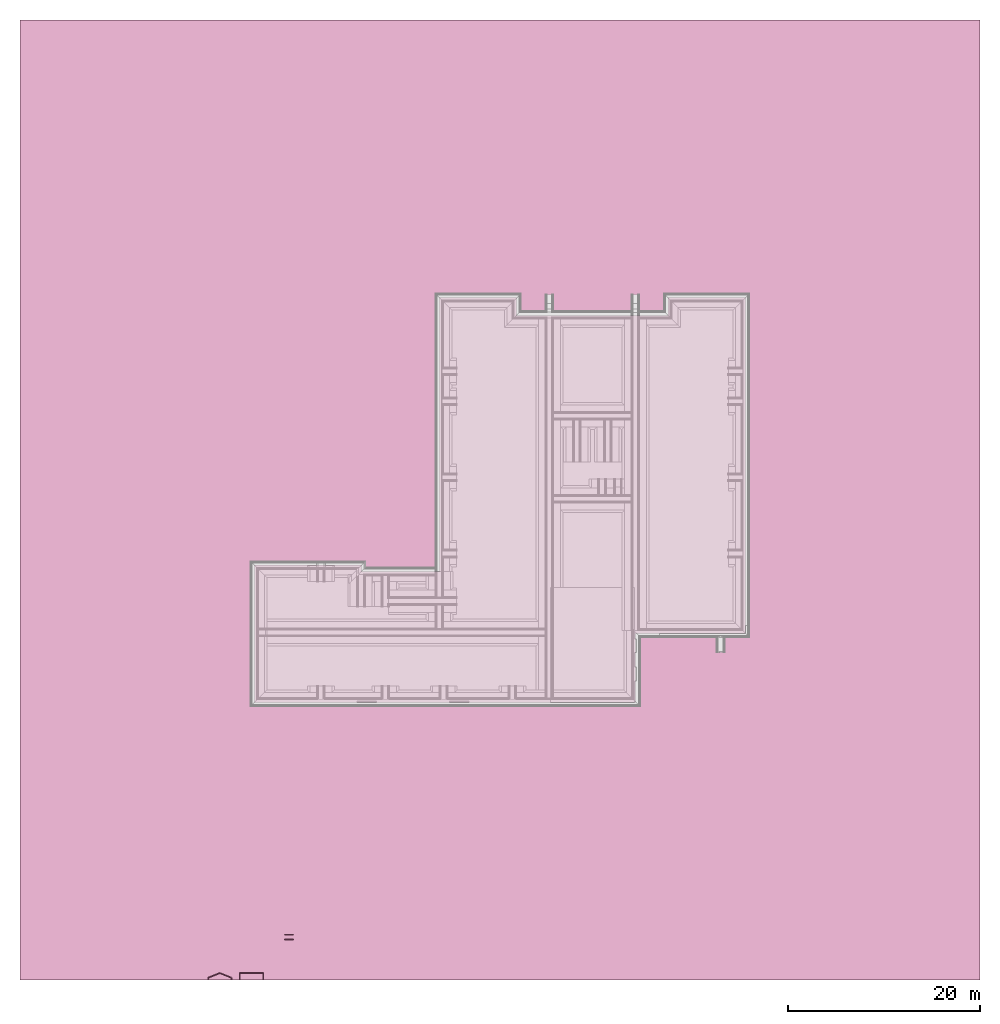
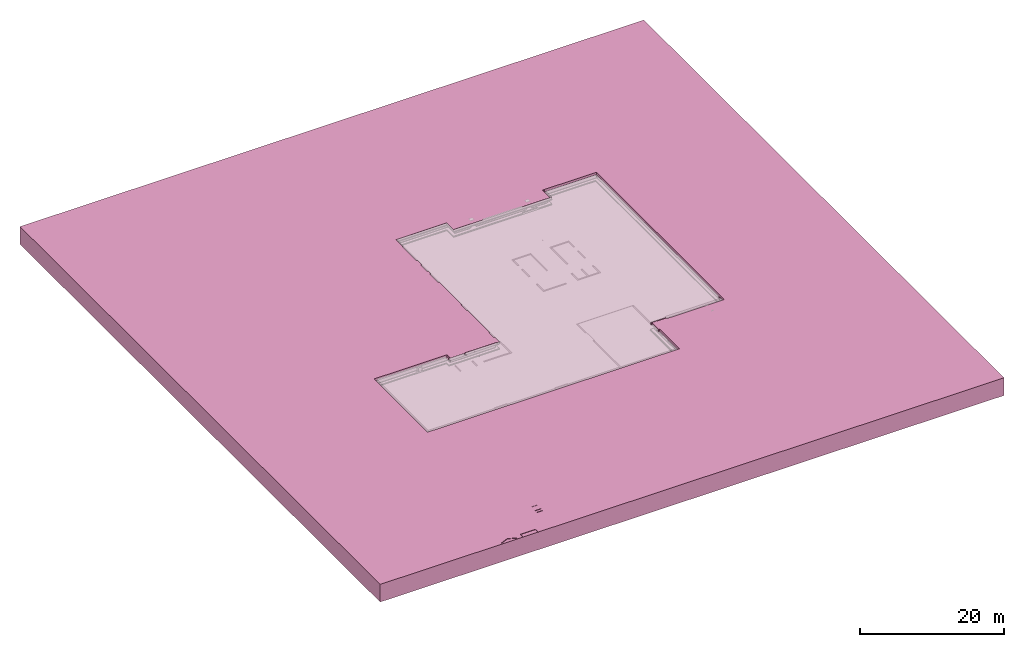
# One storey, part 15 of 15: 2 furnishings.
"""IFC2X3 building model written with IfcOpenShell, lengths in millimetres."""

from ifc_helpers import new_model, entity, si_unit, converted_unit, derived_unit, money_unit, direction, frame, origin_with_axes, place, context, subcontext, project, spatial, faceted_brep, material, type_object, element, save


model = new_model("IFC2X3")

# Units and contexts
model_context = context("Model", 3, precision=0.01, world=origin_with_axes(), true_north=direction((0.0, 1.0)))
plan_context = context("Plan", 3, precision=0.01, world=origin_with_axes(), true_north=direction((0.0, 1.0)))
body_context = subcontext(model_context, "Body", "Model", "MODEL_VIEW")
ifc_project = project(units=[si_unit("LENGTHUNIT", "METRE", prefix="MILLI"), si_unit("AREAUNIT", "SQUARE_METRE"), si_unit("VOLUMEUNIT", "CUBIC_METRE"), converted_unit("PLANEANGLEUNIT", "DEGREE", entity("IfcPlaneAngleMeasure", 0.0174532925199), si_unit("PLANEANGLEUNIT", "RADIAN"), dimensions=[0, 0, 0, 0, 0, 0, 0]), money_unit("EUR"), converted_unit("TIMEUNIT", "Year", entity("IfcTimeMeasure", 31556926.0), si_unit("TIMEUNIT", "SECOND"), dimensions=[0, 0, 1, 0, 0, 0, 0]), si_unit("MASSUNIT", "GRAM", prefix="KILO"), si_unit("THERMODYNAMICTEMPERATUREUNIT", "DEGREE_CELSIUS"), si_unit("LUMINOUSINTENSITYUNIT", "LUMEN"), si_unit("ENERGYUNIT", "JOULE", prefix="MEGA"), derived_unit("THERMALCONDUCTANCEUNIT", [(si_unit("POWERUNIT", "WATT"), 1), (si_unit("LENGTHUNIT", "METRE"), -1), (si_unit("THERMODYNAMICTEMPERATUREUNIT", "KELVIN"), -1)]), derived_unit("SPECIFICHEATCAPACITYUNIT", [(si_unit("ENERGYUNIT", "JOULE"), 1), (si_unit("MASSUNIT", "GRAM", prefix="KILO"), -1), (si_unit("THERMODYNAMICTEMPERATUREUNIT", "KELVIN"), -1)]), derived_unit("MASSDENSITYUNIT", [(si_unit("MASSUNIT", "GRAM", prefix="KILO"), 1), (si_unit("VOLUMEUNIT", "CUBIC_METRE"), -1)])], contexts=[model_context, plan_context])

# Site, building, storey
site_placement = place(None, origin_with_axes())
site = spatial("IfcSite", under=ifc_project, at=site_placement, Name="Site", CompositionType="ELEMENT")
building_placement = place(site_placement, origin_with_axes())
building = spatial("IfcBuilding", under=site, at=building_placement, Name="Naam gebouw", CompositionType="ELEMENT")
storey_placement = place(building_placement, frame((0.0, 0.0, -1050.0), z_axis=(0.0, 0.0, 1.0), x_axis=(1.0, 0.0, 0.0)))
storey = spatial("IfcBuildingStorey", under=building, at=storey_placement, Name="fundering", CompositionType="ELEMENT", Elevation=-1050.0)

# Furnishings
ifc_material = material(Name="ALG - TERREIN")
furniture_type_1 = type_object("IfcFurnitureType", Name="ALG - TERREIN 1740", AssemblyPlace="NOTDEFINED")
furnishing_1_placement = place(storey_placement, frame((4850.0, 4850.0, -310.000000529), z_axis=(0.0, 0.0, 1.0), x_axis=(1.0, 0.0, 0.0)))
element("IfcFurnishingElement", 1, at=furnishing_1_placement, inside=storey, type_object=furniture_type_1, material=ifc_material, Name="72_75 vaste inrichting", ObjectType="SHELF", context=body_context, shape_type="Brep", body=[
    faceted_brep([(39695.0, 0.0, 0.0), (0.0, 0.0, 0.0), (0.0, 0.0, -1739.99999947), (39695.0, 0.0, -1739.99999947), (11155.0, 14300.0, 0.0), (0.0, 14300.0, 0.0), (39695.0, 7200.00003368, 0.0), (51175.0, 7200.00003368, 0.0), (51175.0, 42186.9904411, 0.0), (43075.0000195, 42186.9904411, 0.0), (43075.0000195, 40303.0, 0.0), (27290.0, 40303.0, 0.0), (27290.0, 42186.9904411, 0.0), (19275.0, 42186.9904411, 0.0), (19275.0, 13645.0, 0.0), (11155.0, 13645.0, 0.0), (0.0, 14300.0, -1739.99999947), (39695.0, 7200.00003368, -1739.99999947), (11155.0, 14300.0, -1739.99999947), (11155.0, 13645.0, -1739.99999947), (19275.0, 13645.0, -1739.99999947), (19275.0, 42186.9904411, -1739.99999947), (27290.0, 42186.9904411, -1739.99999947), (27290.0, 40303.0, -1739.99999947), (43075.0000195, 40303.0, -1739.99999947), (43075.0000195, 42186.9904411, -1739.99999947), (51175.0, 42186.9904411, -1739.99999947), (51175.0, 7200.00003368, -1739.99999947)], [[[0, 1, 2, 3]], [[4, 5, 1, 0, 6, 7, 8, 9, 10, 11, 12, 13, 14, 15]], [[1, 5, 16, 2]], [[17, 3, 2, 16, 18, 19, 20, 21, 22, 23, 24, 25, 26, 27]], [[6, 0, 3, 17]], [[5, 4, 18, 16]], [[7, 6, 17, 27]], [[8, 7, 27, 26]], [[9, 8, 26, 25]], [[10, 9, 25, 24]], [[11, 10, 24, 23]], [[12, 11, 23, 22]], [[13, 12, 22, 21]], [[14, 13, 21, 20]], [[15, 14, 20, 19]], [[4, 15, 19, 18]]]),
])
furniture_type_2 = type_object("IfcFurnitureType", Name="ALG - TERREIN 3000", AssemblyPlace="NOTDEFINED")
furnishing_2_placement = place(storey_placement, frame((-19562.5, -24056.5047795, 950.0), z_axis=(0.0, 0.0, 1.0), x_axis=(1.0, 0.0, 0.0)))
element("IfcFurnishingElement", 2, at=furnishing_2_placement, inside=storey, type_object=furniture_type_2, material=ifc_material, Name="72_75 vaste inrichting", ObjectType="SHELF", context=body_context, shape_type="Brep", body=[
    faceted_brep([(66617.5, 36056.5048131, -410.000001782), (64329.4999635, 36056.5048131, -410.000001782), (64217.4999635, 36056.5048131, -410.000001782), (64217.5008571, 36106.5048131, -410.000001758), (66617.5, 36106.5048265, -410.00000095), (66617.5, 36056.5048131, 0.0), (64329.4999635, 36056.5048131, 0.0), (64217.5007493, 36056.5048131, 0.0), (64217.5007479, 36106.5048131, 0.0), (66617.5, 36106.5048131, 0.0)], [[[0, 1, 2, 3, 4]], [[0, 5, 6, 1]], [[6, 7, 2, 1]], [[7, 8, 3, 2]], [[9, 4, 3, 8]], [[4, 9, 5, 0]], [[5, 9, 8, 7, 6]]]),
    faceted_brep([(100000.0, 100000.0, 0.0), (0.0, 100000.0, 0.0), (0.0, 0.0, 0.0), (19562.5, 0.0, 0.0), (19562.5, 268.200996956, 0.0), (19652.5, 304.200996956, 0.0), (20691.3337918, 719.734513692, 0.0), (20812.5, 768.200996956, 0.0), (22062.5, 268.200996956, 0.0), (22062.5, 171.268030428, 0.0), (22062.5, 0.0, 0.0), (22861.2491057, 0.0, 0.0), (22861.2491057, 701.200996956, 0.0), (22861.2491057, 768.200996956, 0.0), (25294.2491057, 768.200996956, 0.0), (25361.2491057, 768.200996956, 0.0), (25361.2491057, 0.0, 0.0), (100000.0, 0.0, 0.0), (64217.5002234, 28626.5046977, 0.0), (53387.5, 28626.5046977, 0.0), (24132.4999183, 28626.5047145, 0.0), (24132.4999183, 43486.5048444, 0.0), (35847.5000817, 43486.5048964, 0.0), (35847.5000817, 42651.5047795, 0.0), (35777.5, 42651.5047795, 0.0), (35707.5, 42651.5047795, 0.0), (35567.5, 42651.5047795, 0.0), (35567.5, 42551.5047795, 0.0), (37967.5, 42551.5047795, 0.0), (37967.5, 42579.5047795, 0.0), (38177.5, 42579.5047795, 0.0), (38177.5, 42551.5047795, 0.0), (38227.5, 42551.5047795, 0.0), (38227.5, 42651.5047824, 0.0), (43347.4999999, 42651.5047824, 0.0), (43347.4999999, 42551.5047795, 0.0), (43627.5, 42551.5047795, 0.0), (43627.5, 42579.5047795, 0.0), (43687.5, 42579.5047795, 0.0), (43687.5, 43851.5047795, 0.0), (43547.4999994, 43851.5047795, 0.0), (43547.4999994, 45269.0047795, 0.0), (43687.5, 45269.0047795, 0.0), (43687.5, 51369.0047795, 0.0), (43547.4999994, 51369.0047795, 0.0), (43547.4999994, 52994.0047795, 0.0), (43687.5, 52994.0047795, 0.0), (43687.5, 59294.0047795, 0.0), (43547.4999994, 59294.0047795, 0.0), (43547.4999994, 61669.0047795, 0.0), (43687.5, 61669.0047795, 0.0), (43687.5, 62369.0047795, 0.0), (43547.4999994, 62369.0047795, 0.0), (43547.4999994, 64153.5047981, 0.0), (43687.5, 64153.5047981, 0.0), (43687.5, 65303.5047981, 0.0), (43547.4999994, 65303.5047981, 0.0), (43547.4999994, 69291.5047795, 0.0), (43625.5, 69291.5047795, 0.0), (43625.5, 71155.504757, 0.0), (43687.5, 71155.504757, 0.0), (51732.5032564, 71155.504757, 0.0), (51732.5032564, 71093.504757, 0.0), (51732.5032564, 69271.5047841, 0.0), (67487.5000195, 69271.5047795, 0.0), (67487.4999183, 69281.504763, 0.0), (67347.4999424, 69281.504763, 0.0), (67277.4999042, 69281.504763, 0.0), (67207.4998365, 69281.504763, 0.0), (67207.4999183, 71373.5048082, 0.0), (75867.5001356, 71373.5048394, 0.0), (75867.5000682, 35826.5046688, 0.0), (66617.5, 35826.504745, 0.0), (66617.5, 35896.5047555, 0.0), (66617.5, 35966.5048267, 0.0), (66617.5, 35994.5048131, 0.0), (64329.4999887, 35994.5048131, 0.0), (64329.5007534, 34106.5048248, 0.0), (64497.5000661, 34106.5047795, 0.0), (64497.5000661, 28626.5047147, 0.0), (28474.8956078, 5730.81287156, 0.0), (28474.8956078, 5663.81287156, 0.0), (27549.7388045, 5663.81287156, 0.0), (27549.7388045, 5730.81287156, 0.0), (28474.8956078, 5253.81287156, 0.0), (28474.8956078, 5163.81287156, 0.0), (27549.7388045, 5163.81287156, 0.0), (27549.7388045, 5253.81287156, 0.0), (28474.8956078, 4730.81287156, 0.0), (28474.8956078, 4663.81287156, 0.0), (27549.7388045, 4663.81287156, 0.0), (27549.7388045, 4730.81287156, 0.0), (28474.8956078, 4253.81287156, 0.0), (28474.8956078, 4163.81287156, 0.0), (27549.7388045, 4163.81287156, 0.0), (27549.7388045, 4253.81287156, 0.0), (72853.499908, 35716.5047373, 0.0), (73121.499908, 35716.5047373, 0.0), (73121.499908, 35806.5047373, 0.0), (73137.499908, 35806.5047373, 0.0), (73137.499908, 35706.5047373, 0.0), (72837.499908, 35706.5047373, 0.0), (72837.499908, 35806.5047373, 0.0), (72853.499908, 35806.5047373, 0.0), (72853.499908, 34116.5047795, 0.0), (72837.499908, 34116.5047795, 0.0), (72837.499908, 34216.5047795, 0.0), (73137.499908, 34216.5047795, 0.0), (73137.499908, 34116.5047795, 0.0), (73121.499908, 34116.5047795, 0.0), (73121.499908, 34206.5047795, 0.0), (72853.499908, 34206.5047795, 0.0), (100000.0, 100000.0, -3000.0), (0.0, 100000.0, -3000.0), (0.0, 0.0, -3000.0), (21972.5, 0.0, 0.0), (19652.5, 0.0, 0.0), (19652.5, 0.0, -39.0), (19562.5, 0.0, -39.0), (100000.0, 0.0, -3000.0), (25361.2491057, 0.0, -39.0), (25294.2491057, 0.0, -39.0), (25294.2491057, 0.0, 0.0), (22928.2491057, 0.0, 0.0), (22928.2491057, 0.0, -39.0), (22861.2491057, 0.0, -39.0), (22062.5, 0.0, -39.0), (21972.5, 0.0, -39.0), (19562.5, 268.200996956, -39.0), (19652.5, 304.200996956, -39.0), (20691.3337918, 719.734513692, -39.0), (20812.5, 768.200996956, -39.0), (22062.5, 268.200996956, -39.0), (22062.5, 171.268030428, -39.0), (22861.2491057, 701.200996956, -39.0), (22861.2491057, 768.200996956, -39.0), (25294.2491057, 768.200996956, -39.0), (25361.2491057, 768.200996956, -39.0), (64497.5000661, 28626.5047147, -410.0), (64427.4999985, 28626.5047147, -410.0), (24202.4999369, 28626.5047145, -410.0), (24132.4999183, 28626.5047145, -410.0), (24132.4999183, 43486.5048444, -410.0), (24202.4999369, 43486.5048444, -410.0), (35567.4999979, 43486.5048832, -410.0), (35567.4999979, 43486.5048832, -349.999998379), (35777.5000023, 43486.5048964, -350.0), (35847.5000817, 43486.5048964, -350.0), (35847.5000817, 42651.5047795, -350.0), (35777.5, 42651.5047795, -350.0), (35707.5, 42651.5047795, -350.0), (35567.5, 42651.5047795, -350.0), (35567.4999979, 43206.5048137, -349.999998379), (35567.4999979, 43206.5048137, -410.0), (35567.4999997, 42551.5050846, -410.00000095), (37967.5, 42551.5047795, -410.0), (37967.5, 42579.5047795, -410.0), (38177.5, 42579.5047795, -410.0), (38177.5, 42551.5047795, -410.0), (38227.5, 42551.5047795, -410.0), (38227.5, 42651.5047795, -410.0), (43347.4999999, 42651.5047795, -410.0), (43347.4999999, 42551.5047795, -410.0), (43407.5, 42551.5047795, -410.000001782), (43627.5, 42551.5047795, -410.0), (43627.5, 42579.5047795, -410.0), (43687.5, 42579.5047795, -410.0), (43687.5, 43851.5047795, -350.0), (43687.5, 71093.504541, -410.00000095), (43687.5, 71093.504757, -350.0), (43687.5, 69291.5047795, -350.0), (43687.5, 65303.5047981, -350.0), (43687.5, 64153.5047981, -350.0), (43687.5, 62369.0047795, -350.0), (43687.5, 61669.0047795, -350.0), (43687.5, 59294.0047795, -350.0), (43687.5, 52994.0047795, -350.0), (43687.5, 51369.0047795, -350.0), (43687.5, 45269.0047795, -350.0), (43547.5, 43851.5047795, -350.0), (43547.5, 45269.0047795, -350.0), (43547.5, 51369.0047795, -350.0), (43547.5, 52994.0047795, -350.0), (43547.5, 59294.0047795, -350.0), (43547.5, 61669.0047795, -350.0), (43547.5, 62369.0047795, -350.0), (43547.5, 64153.5047981, -350.0), (43547.5, 65303.5047981, -350.0), (43547.5, 69291.5047795, -350.0), (43625.5, 69291.5047795, -350.0), (43625.5, 71155.504757, -350.0), (43687.5, 71155.504757, -350.0), (51732.5032564, 71155.504757, -350.0), (51732.5032564, 71093.504757, -350.0), (51732.5032564, 69271.5047841, -350.0), (67487.5000195, 69271.5047795, -350.0), (67487.5000195, 69209.5047795, -350.0), (67487.499992, 69209.5047795, -410.000000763), (67487.4999183, 69281.504763, -410.0), (67347.4999424, 69281.504763, -410.0), (67277.4999042, 69281.504763, -410.0), (67207.4998365, 69281.504763, -410.0), (67207.4998365, 70883.5047735, -410.0), (67207.4999183, 70883.5047735, -350.0), (67207.4999183, 71303.5048014, -350.0), (67207.4999183, 71373.5048014, -350.0), (67487.5000225, 71373.5048014, -350.0), (67487.5000225, 71373.5048831, -410.0), (75797.5001416, 71373.5048394, -410.0), (75867.5001361, 71373.5048394, -410.0), (75867.5001361, 37144.0047795, -350.0), (75867.5001361, 36916.5047795, -350.0), (75867.4999775, 36916.5047795, -410.000001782), (75867.4999765, 35826.5048141, -410.000000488), (75867.5001361, 37144.0047795, -410.0), (66617.5, 35826.5048131, -410.000001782), (66617.5, 35896.5047555, -410.000001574), (66617.5, 35966.5048267, -410.000001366), (66617.5, 35994.5048131, -410.000001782), (64329.4999887, 35994.5048131, -410.000001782), (64329.5007534, 34106.5048248, -410.000001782), (64497.5000661, 34106.5047795, -410.0), (28474.8956078, 5730.81287156, -14.0), (28474.8956078, 5663.81287156, -14.0), (27549.7388045, 5663.81287156, -14.0), (27549.7388045, 5730.81287156, -14.0), (28474.8956078, 5253.81287156, -14.0), (28474.8956078, 5163.81287156, -14.0), (27549.7388045, 5163.81287156, -14.0), (27549.7388045, 5253.81287156, -14.0), (28474.8956078, 4730.81287156, -39.0), (28474.8956078, 4663.81287156, -39.0), (27549.7388045, 4663.81287156, -39.0), (27549.7388045, 4730.81287156, -39.0), (28474.8956078, 4253.81287156, -39.0), (28474.8956078, 4163.81287156, -39.0), (27549.7388045, 4163.81287156, -39.0), (27549.7388045, 4253.81287156, -39.0), (73121.499908, 35716.5047373, -396.755325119), (72853.499908, 35716.5047373, -396.755325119), (73121.499908, 35806.5047373, -396.755325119), (73137.499908, 35806.5047373, -396.755325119), (73137.499908, 35706.5047373, -396.755325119), (72837.499908, 35706.5047373, -396.755325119), (72837.499908, 35806.5047373, -396.755325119), (72853.499908, 35806.5047373, -396.755325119), (72837.499908, 34116.5047795, -396.755325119), (72853.499908, 34116.5047795, -396.755325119), (72837.499908, 34216.5047795, -396.755325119), (73137.499908, 34216.5047795, -396.755325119), (73137.499908, 34116.5047795, -396.755325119), (73121.499908, 34116.5047795, -396.755325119), (73121.499908, 34206.5047795, -396.755325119), (72853.499908, 34206.5047795, -396.755325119), (35567.5, 42551.5047795, -3000.0), (35567.5, 43206.5047795, -3000.0), (24412.5, 43206.5047795, -3000.0), (24412.5, 28906.5047795, -3000.0), (64107.5, 28906.5047795, -3000.0), (64107.5, 36106.5048131, -3000.0), (75587.5, 36106.5048131, -3000.0), (75587.5, 71093.4952205, -3000.0), (67487.5000195, 71093.4952205, -3000.0), (67487.5000195, 69209.5047795, -3000.0), (51702.5, 69209.5047795, -3000.0), (51702.5, 71093.4952205, -3000.0), (43687.5, 71093.4952205, -3000.0), (43687.5, 42551.5047795, -3000.0), (21972.5, 207.268030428, 0.0), (20812.5, 671.268030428, 0.0), (19652.5, 207.268030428, 0.0), (19652.5, 207.268030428, -39.0), (20812.5, 671.268030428, -39.0), (21972.5, 207.268030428, -39.0), (22928.2491057, 701.200996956, -39.0), (25294.2491057, 701.200996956, -39.0), (25294.2491057, 701.200996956, 0.0), (22928.2491057, 701.200996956, 0.0), (64597.499978, 35726.5048195, -410.000000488), (64597.499978, 28526.5048076, -410.000000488), (24032.5000064, 28526.5047856, -410.000000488), (24032.5000064, 43586.5047731, -410.000000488), (35947.5015654, 43586.5047731, -410.000000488), (35947.5003774, 42931.5047731, -410.000000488), (43307.5000114, 42931.5047731, -409.999997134), (43307.5000064, 71473.5047506, -410.000000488), (52152.4999936, 71473.5047506, -410.000000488), (52152.4999936, 69659.5047731, -410.000000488), (54767.4996335, 69659.5047731, -409.999997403), (54767.4996333, 71394.5047794, -409.999997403), (55567.5003664, 71394.5047795, -409.999997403), (55567.5003665, 69659.5047731, -409.999997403), (63707.4996335, 69659.5047731, -409.999997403), (63707.4996335, 71394.5047795, -409.999997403), (64507.5003665, 71394.5047795, -409.999997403), (64507.5003665, 69659.5047731, -409.999997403), (67107.5000005, 69659.5047731, -410.000000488), (67107.4995364, 71473.4975079, -410.000000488), (75967.4999711, 71473.5049432, -410.000000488), (75967.4999711, 35726.5048195, -410.000000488), (73397.4999936, 35726.5048255, -409.999996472), (73397.4999936, 34126.5047308, -410.00000577), (72597.4987634, 34126.5047308, -410.00000577), (72597.4987634, 35726.5048255, -409.999996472), (75797.5000577, 36916.5047795, -410.000001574), (75727.5000119, 36916.5047795, -410.000001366), (75587.4999866, 36916.5047795, -410.00000095), (75587.5000397, 37144.0047795, -410.0), (75727.5000479, 37144.0047795, -410.0), (75797.5001174, 37144.0047795, -410.0), (67487.5000225, 71303.5048887, -410.0), (67487.5000225, 71233.5047528, -410.0), (67487.5000225, 71093.5048014, -410.0), (67487.5000225, 70883.5048292, -410.0), (67347.4999424, 70883.5047735, -410.0), (67277.4999042, 70883.5047735, -410.0), (51702.5, 69209.5047795, -410.000000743), (51702.5, 71093.5004454, -410.00000095), (35567.4999979, 43346.5048006, -410.0), (35567.4999979, 43416.5048169, -410.0), (35567.4999979, 43416.5048169, -349.999998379), (35567.4999979, 43346.5048006, -349.999998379), (51702.5, 71093.4952205, -350.0), (51702.5, 69209.5047795, -350.0), (67277.4999183, 70883.5047735, -350.0), (67277.4999183, 71303.5048014, -350.0), (67487.5000225, 71303.5048014, -350.0), (75797.5000735, 37144.0047795, -350.0), (75797.5000735, 36916.5047795, -350.0), (35567.4999989, 43206.5038958, -1109.99999465), (35567.4999999, 42551.5050849, -1109.99999465), (31825.0014943, 43206.5045809, -1059.08244427), (30874.9985057, 43206.5046175, -1059.08244427), (30874.9985057, 43206.5046173, -1109.99999767), (24412.5000107, 43206.5047688, -1109.99999465), (31825.0014943, 43206.5045807, -1109.99999765), (24412.5000107, 28906.5047901, -1109.99999465), (64107.5, 28906.5047811, -1109.99999465), (64107.5, 28926.5048072, -1109.99999447), (64107.5, 28926.5048072, -1259.99999866), (64107.5, 36106.5048131, -1259.99999866), (75587.4999893, 36106.50482, -1109.99999465), (64197.4999782, 36106.5048138, -1259.99999866), (64197.4999782, 36106.5048142, -1109.99999508), (75587.5000271, 71093.502212, -1109.99999465), (67487.4999819, 71093.4974785, -1109.99999465), (67487.5000015, 69259.5047733, -1109.99999447), (67487.5000038, 69259.5047733, -1259.99999866), (67487.5000052, 69209.5047795, -1259.99999866), (51702.5, 69209.5047795, -1259.99999866), (51702.5, 71093.4979314, -1109.99999464), (51702.5, 71073.5047508, -1259.99999866), (51702.5, 71073.5047508, -1109.99999447), (43687.5, 71093.502022, -1109.99999465), (43687.5, 42551.5047795, -1109.99999465), (43232.4999973, 42551.5047795, -1109.99999866), (64597.4999748, 35726.5048228, -1010.00000107), (64597.4999748, 28526.5048108, -1010.00000107), (24032.5000096, 28526.5047889, -1010.00000107), (24032.5000096, 43586.5047699, -1010.00000107), (35947.5015621, 43586.5047699, -1010.00000107), (35947.5003741, 42931.5047699, -1010.00000107), (43307.5000114, 42931.5047731, -1009.99998921), (43307.5000096, 71473.5047474, -1010.00000107), (52152.4999904, 71473.5047474, -1010.00000107), (52152.4999904, 69659.5047699, -1010.00000107), (54767.4996335, 69659.5047731, -1009.99999936), (54767.4996388, 71394.5047794, -1009.99999335), (54692.4996242, 71394.5047794, -1009.99999335), (54692.4996242, 71394.5047794, -1109.99999866), (55642.5003755, 71394.5047795, -1109.99999866), (55642.5003755, 71394.5047795, -1009.99999335), (55567.5003609, 71394.5047795, -1009.99999335), (55567.5003665, 69659.5047731, -1009.99999936), (63707.4996335, 69659.5047731, -1009.99999936), (63707.499639, 71394.5047795, -1009.99999335), (63632.4996244, 71394.5047795, -1009.99999335), (63632.4996244, 71394.5047795, -1109.99999866), (64582.5003756, 71394.5047795, -1109.99999866), (64582.5003756, 71394.5047795, -1009.99999335), (64507.500361, 71394.5047795, -1009.99999335), (64507.5003665, 69659.5047731, -1009.99999936), (67107.5000037, 69659.5047699, -1010.00000107), (67107.4995396, 71473.4975046, -1010.00000107), (75967.4999679, 71473.50494, -1010.00000107), (75967.4999679, 35726.5048228, -1010.00000107), (73397.4999936, 35726.5048255, -1009.99998717), (73397.4999914, 34126.5047308, -1009.99999763), (73472.5000027, 34126.5047308, -1009.99999763), (73472.5000027, 34126.5047308, -1109.99999866), (72522.4987543, 34126.5047308, -1109.99999866), (72522.4987543, 34126.5047308, -1009.99999763), (72597.4987657, 34126.5047308, -1009.99999763), (72597.4987634, 35726.5048255, -1009.99998717), (75727.5000373, 36916.5047795, -350.0), (75587.5000543, 36916.5047795, -350.0), (75587.5000543, 37144.0047795, -350.0), (75727.5000373, 37144.0047795, -350.0), (67487.5000225, 71303.5048887, 0.0), (67487.5000225, 71233.5047528, 0.0), (67487.4999183, 71233.5048083, -350.0), (67487.4999183, 71093.4952205, -350.0), (67487.4999183, 70883.5047735, -350.0), (67347.4999183, 70883.5047735, -350.0), (67277.4999042, 70883.5047735, 0.0), (67347.4999424, 70883.5047735, 0.0), (67277.4999183, 71303.5048014, 0.0), (51752.4999938, 71073.5047508, -1109.99999447), (51752.4999938, 69259.5047733, -1109.99999447), (62857.4996286, 69259.5047733, -1109.99999447), (62857.4996244, 69509.5047795, -1109.99999866), (63632.4996244, 69509.5047795, -1109.99999866), (63632.4996244, 69734.5047822, -1109.99999866), (55642.5003756, 69734.5047822, -1109.99999866), (55642.5003756, 69559.5047907, -1109.99999866), (54692.4996244, 69559.5047906, -1109.99999866), (54692.4996244, 69734.5047822, -1109.99999866), (52227.5000027, 69734.5047822, -1109.99999866), (52227.5000027, 71548.5047597, -1109.99999866), (43232.4999973, 71548.5047597, -1109.99999866), (43232.4999973, 43006.5047822, -1109.99999866), (36022.5005225, 43006.5047822, -1109.99999866), (36022.5017105, 43661.5047822, -1109.99999866), (31825.0014943, 43661.5047822, -1109.99999866), (31825.0014943, 43661.5047822, -1059.08244427), (30874.9985057, 43661.5047822, -1059.08244427), (30874.9985057, 43661.5047822, -1109.99999866), (23957.4999973, 43661.5047822, -1109.99999866), (23957.4999973, 28451.5047765, -1109.99999866), (64672.4999871, 28451.5047985, -1109.99999866), (64672.4999871, 35651.5048104, -1109.99999866), (72522.4987543, 35651.5048104, -1109.99999866), (73472.5000027, 35651.5048104, -1109.99999866), (76042.4999802, 35651.5048104, -1109.99999866), (76042.4999802, 71548.5050153, -1109.99999866), (67032.4995081, 71548.497454, -1109.99999866), (67032.4999722, 69734.5047822, -1109.99999866), (64582.5003756, 69734.5047822, -1109.99999866), (64582.5003756, 69509.5047795, -1109.99999866), (65357.5003756, 69509.5047795, -1109.99999866), (65357.5003714, 69259.5047733, -1109.99999447), (64197.4999782, 28926.5048072, -1109.99999447), (64197.4999782, 28926.5048072, -1259.99999866), (65507.5003756, 69259.5047733, -1259.99999866), (51752.4999938, 69259.5047733, -1259.99999866), (51752.4999938, 71073.5047508, -1259.99999866), (65507.5003756, 69509.5047795, -1259.99999866), (62707.4996244, 69509.5047795, -1259.99999866), (62707.4996244, 69259.5047733, -1259.99999866), (64672.4999871, 35651.5048104, -1010.00000107), (64672.4999871, 28451.5047985, -1010.00000107), (23957.4999973, 28451.5047765, -1010.00000107), (23957.4999973, 43661.5047822, -1010.00000107), (36022.5017105, 43661.5047822, -1010.00000107), (36022.5005225, 43006.5047822, -1010.00000107), (43232.4999973, 43006.5047822, -1010.00001325), (43232.4999973, 71548.5047597, -1010.00000107), (52227.5000027, 71548.5047597, -1010.00000107), (52227.5000027, 69734.5047822, -1010.00000107), (54692.4996244, 69734.5047822, -1009.99999335), (72522.4987543, 35651.5048104, -1010.00001325), (55642.5003756, 69734.5047822, -1009.99999335), (63632.4996244, 69734.5047822, -1009.99999335), (64582.5003756, 69734.5047822, -1009.99999335), (67032.4999722, 69734.5047822, -1010.00000107), (67032.4995081, 71548.497454, -1010.00000107), (76042.4999802, 71548.5050153, -1010.00000107), (76042.4999802, 35651.5048104, -1010.00000107), (73472.5000027, 35651.5048104, -1010.00001325), (67347.4999183, 71233.5048083, 0.0), (67347.4999183, 71233.5048083, -350.0)], [[[0, 1, 2, 3, 4, 5, 6, 7, 8, 9, 10, 11, 12, 13, 14, 15, 16, 17], [18, 19, 20, 21, 22, 23, 24, 25, 26, 27, 28, 29, 30, 31, 32, 33, 34, 35, 36, 37, 38, 39, 40, 41, 42, 43, 44, 45, 46, 47, 48, 49, 50, 51, 52, 53, 54, 55, 56, 57, 58, 59, 60, 61, 62, 63, 64, 65, 66, 67, 68, 69, 70, 71, 72, 73, 74, 75, 76, 77, 78, 79], [80, 81, 82, 83], [84, 85, 86, 87], [88, 89, 90, 91], [92, 93, 94, 95], [96, 97, 98, 99, 100, 101, 102, 103], [104, 105, 106, 107, 108, 109, 110, 111]], [[0, 112, 113, 1]], [[1, 113, 114, 2]], [[115, 116, 117, 118, 3, 2, 114, 119, 17, 16, 120, 121, 122, 123, 124, 125, 11, 10, 126, 127]], [[4, 3, 118, 128]], [[5, 4, 128, 129]], [[130, 6, 5, 129]], [[7, 6, 130, 131]], [[7, 131, 132, 8]], [[9, 8, 132, 133]], [[10, 9, 133, 126]], [[12, 11, 125, 134]], [[13, 12, 134, 135]], [[14, 13, 135, 136]], [[15, 14, 136, 137]], [[15, 137, 120, 16]], [[112, 0, 17, 119]], [[138, 139, 140, 141, 20, 19, 18, 79]], [[21, 20, 141, 142]], [[22, 21, 142, 143, 144, 145, 146, 147]], [[22, 147, 148, 23]], [[24, 23, 148, 149]], [[25, 24, 149, 150]], [[25, 150, 151, 26]], [[152, 153, 154, 27, 26, 151]], [[27, 154, 155, 28]], [[29, 28, 155, 156]], [[157, 30, 29, 156]], [[30, 157, 158, 31]], [[159, 32, 31, 158]], [[160, 33, 32, 159]], [[34, 33, 160, 161]], [[34, 161, 162, 35]], [[36, 35, 162, 163, 164]], [[37, 36, 164, 165]], [[38, 37, 165, 166]], [[167, 39, 38, 166, 168, 169, 170, 171, 55, 54, 172, 173, 51, 50, 174, 175, 47, 46, 176, 177, 43, 42, 178]], [[40, 39, 167, 179]], [[41, 40, 179, 180]], [[42, 41, 180, 178]], [[43, 177, 181, 44]], [[182, 45, 44, 181]], [[176, 46, 45, 182]], [[47, 175, 183, 48]], [[49, 48, 183, 184]], [[174, 50, 49, 184]], [[52, 51, 173, 185]], [[53, 52, 185, 186]], [[54, 53, 186, 172]], [[56, 55, 171, 187]], [[57, 56, 187, 188]], [[58, 57, 188, 189]], [[190, 59, 58, 189]], [[191, 60, 59, 190]], [[192, 61, 60, 191]], [[61, 192, 193, 62]], [[63, 62, 193, 194]], [[195, 64, 63, 194]], [[195, 196, 197, 198, 65, 64]], [[65, 198, 199, 66]], [[67, 66, 199, 200]], [[67, 200, 201, 68]], [[69, 68, 201, 202, 203, 204, 205]], [[69, 205, 206, 207, 208, 209, 70]], [[210, 211, 212, 213, 71, 70, 209, 214]], [[71, 213, 215, 72]], [[216, 73, 72, 215]], [[216, 217, 74, 73]], [[74, 217, 218, 75]], [[75, 218, 219, 76]], [[77, 76, 219, 220]], [[78, 77, 220, 221]], [[79, 78, 221, 138]], [[81, 80, 222, 223]], [[82, 81, 223, 224]], [[83, 82, 224, 225]], [[80, 83, 225, 222]], [[85, 84, 226, 227]], [[86, 85, 227, 228]], [[87, 86, 228, 229]], [[84, 87, 229, 226]], [[89, 88, 230, 231]], [[90, 89, 231, 232]], [[91, 90, 232, 233]], [[88, 91, 233, 230]], [[93, 92, 234, 235]], [[94, 93, 235, 236]], [[95, 94, 236, 237]], [[92, 95, 237, 234]], [[238, 97, 96, 239]], [[240, 98, 97, 238]], [[241, 99, 98, 240]], [[242, 100, 99, 241]], [[243, 101, 100, 242]], [[244, 102, 101, 243]], [[245, 103, 102, 244]], [[239, 96, 103, 245]], [[246, 105, 104, 247]], [[248, 106, 105, 246]], [[249, 107, 106, 248]], [[250, 108, 107, 249]], [[251, 109, 108, 250]], [[252, 110, 109, 251]], [[253, 111, 110, 252]], [[247, 104, 111, 253]], [[112, 119, 114, 113], [254, 255, 256, 257, 258, 259, 260, 261, 262, 263, 264, 265, 266, 267]], [[268, 269, 270, 116, 115]], [[116, 270, 271, 117]], [[129, 128, 118, 117, 271, 272, 273, 127, 126, 133, 132, 131, 130]], [[136, 135, 134, 125, 124, 274, 275, 121, 120, 137]], [[275, 276, 122, 121]], [[276, 277, 123, 122]], [[277, 274, 124, 123]], [[268, 115, 127, 273]], [[278, 279, 280, 281, 282, 283, 284, 285, 286, 287, 288, 289, 290, 291, 292, 293, 294, 295, 296, 297, 298, 299, 300, 301, 302, 303], [143, 142, 141, 140, 139, 138, 221, 220, 219, 218, 217, 216, 215, 213, 212, 304, 305, 306, 307, 308, 309, 214, 209, 208, 207, 310, 311, 312, 313, 314, 315, 202, 201, 200, 199, 198, 197, 316, 317, 168, 166, 165, 164, 163, 162, 161, 160, 159, 158, 157, 156, 155, 154, 153, 318, 319, 144]], [[145, 144, 319, 320]], [[321, 152, 151, 150, 149, 148, 147, 146, 145, 320]], [[152, 321, 318, 153]], [[322, 169, 168, 317]], [[190, 189, 188, 187, 171, 170, 169, 322, 323, 196, 195, 194, 193, 192, 191]], [[173, 172, 186, 185]], [[175, 174, 184, 183]], [[177, 176, 182, 181]], [[167, 178, 180, 179]], [[197, 196, 323, 316]], [[315, 324, 203, 202]], [[205, 204, 203, 324, 325, 326, 206]], [[207, 206, 326, 310]], [[210, 327, 328, 211]], [[211, 328, 304, 212]], [[210, 214, 309, 327]], [[223, 222, 225, 224]], [[227, 226, 229, 228]], [[231, 230, 233, 232]], [[235, 234, 237, 236]], [[242, 241, 240, 238, 239, 245, 244, 243]], [[248, 246, 247, 253, 252, 251, 250, 249]], [[329, 255, 254, 330]], [[331, 332, 333, 334, 256, 255, 329, 335]], [[334, 336, 257, 256]], [[337, 258, 257, 336]], [[259, 258, 337, 338, 339, 340]], [[341, 260, 259, 340, 342, 343]], [[344, 261, 260, 341]], [[261, 344, 345, 262]], [[345, 346, 347, 348, 263, 262]], [[263, 348, 349, 264]], [[350, 265, 264, 349, 351, 352]], [[350, 353, 266, 265]], [[266, 353, 354, 267]], [[354, 355, 330, 254, 267]], [[269, 268, 273, 272]], [[270, 269, 272, 271]], [[277, 276, 275, 274]], [[278, 356, 357, 279]], [[279, 357, 358, 280]], [[359, 281, 280, 358]], [[360, 282, 281, 359]], [[282, 360, 361, 283]], [[362, 284, 283, 361]], [[363, 285, 284, 362]], [[364, 286, 285, 363]], [[286, 364, 365, 287]], [[366, 288, 287, 365]], [[367, 289, 288, 366]], [[367, 368, 369, 370, 371, 372, 290, 289]], [[290, 372, 373, 291]], [[374, 292, 291, 373]], [[375, 293, 292, 374]], [[375, 376, 377, 378, 379, 380, 294, 293]], [[294, 380, 381, 295]], [[382, 296, 295, 381]], [[383, 297, 296, 382]], [[298, 297, 383, 384]], [[298, 384, 385, 299]], [[299, 385, 386, 300]], [[300, 386, 387, 301]], [[388, 389, 390, 391, 392, 302, 301, 387]], [[303, 302, 392, 393]], [[303, 393, 356, 278]], [[328, 394, 305, 304]], [[394, 395, 306, 305]], [[395, 396, 307, 306]], [[396, 397, 308, 307]], [[327, 309, 308, 397]], [[398, 399, 400, 311, 310, 326]], [[311, 400, 401, 312]], [[312, 401, 402, 313]], [[402, 403, 314, 313]], [[404, 324, 315, 314, 403, 405]], [[322, 317, 316, 323]], [[320, 319, 318, 321]], [[406, 325, 324, 404]], [[398, 326, 325, 406]], [[328, 327, 397, 394]], [[335, 329, 330, 355, 354, 353, 350, 352, 407, 408, 409, 410, 411, 412, 413, 414, 415, 416, 417, 418, 419, 420, 421, 422, 423]], [[424, 425, 332, 331]], [[333, 332, 425, 426]], [[333, 426, 427, 428, 429, 430, 431, 432, 433, 434, 435, 436, 437, 438, 439, 440, 346, 345, 344, 341, 343, 441, 338, 337, 336, 334]], [[423, 424, 331, 335]], [[441, 442, 339, 338]], [[442, 342, 340, 339]], [[343, 342, 442, 441]], [[347, 346, 440, 443]], [[444, 445, 351, 349, 348, 347, 443, 446, 447, 448]], [[445, 407, 352, 351]], [[449, 450, 451, 452, 453, 454, 455, 456, 457, 458, 459, 368, 367, 366, 365, 364, 363, 362, 361, 360, 359, 358, 357, 356, 393, 392, 391, 460]], [[369, 368, 459, 416]], [[369, 416, 415, 414, 413, 370]], [[371, 370, 413, 461]], [[372, 371, 461, 462, 376, 375, 374, 373]], [[377, 376, 462, 412]], [[377, 412, 411, 438, 437, 378]], [[379, 378, 437, 463]], [[383, 382, 381, 380, 379, 463, 464, 465, 466, 467, 468, 388, 387, 386, 385, 384]], [[388, 468, 432, 389]], [[389, 432, 431, 390]], [[460, 391, 390, 431]], [[397, 396, 395, 394]], [[399, 398, 406, 404, 405, 469]], [[399, 469, 470, 400]], [[400, 470, 403, 402, 401]], [[469, 405, 403, 470]], [[407, 445, 444, 408]], [[409, 408, 444, 448]], [[410, 409, 448, 447]], [[438, 411, 410, 447, 446, 439]], [[462, 461, 413, 412]], [[459, 458, 417, 416]], [[457, 418, 417, 458]], [[418, 457, 456, 419]], [[419, 456, 455, 420]], [[455, 454, 421, 420]], [[454, 453, 422, 421]], [[453, 452, 427, 426, 425, 424, 423, 422]], [[452, 451, 428, 427]], [[450, 429, 428, 451]], [[450, 449, 430, 429]], [[460, 431, 430, 449]], [[467, 433, 432, 468]], [[466, 434, 433, 467]], [[434, 466, 465, 435]], [[435, 465, 464, 436]], [[436, 464, 463, 437]], [[446, 443, 440, 439]]]),
    faceted_brep([(31650.0014916, 43206.5045901, -410.0), (31650.0014916, 43486.5047816, -409.999999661), (31049.9985084, 43486.5047816, -409.999999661), (31049.9985084, 43206.5046132, -410.0), (31650.0014916, 43206.5045879, -1010.00000181), (31650.0014916, 43486.5047816, -1010.00000178), (31049.9985084, 43486.5047816, -1010.00000178), (31049.9985084, 43206.504611, -1010.00000178)], [[[0, 1, 2, 3]], [[0, 4, 5, 1]], [[1, 5, 6, 2]], [[7, 3, 2, 6]], [[4, 0, 3, 7]], [[5, 4, 7, 6]]]),
])

save(model, "model.ifc")
